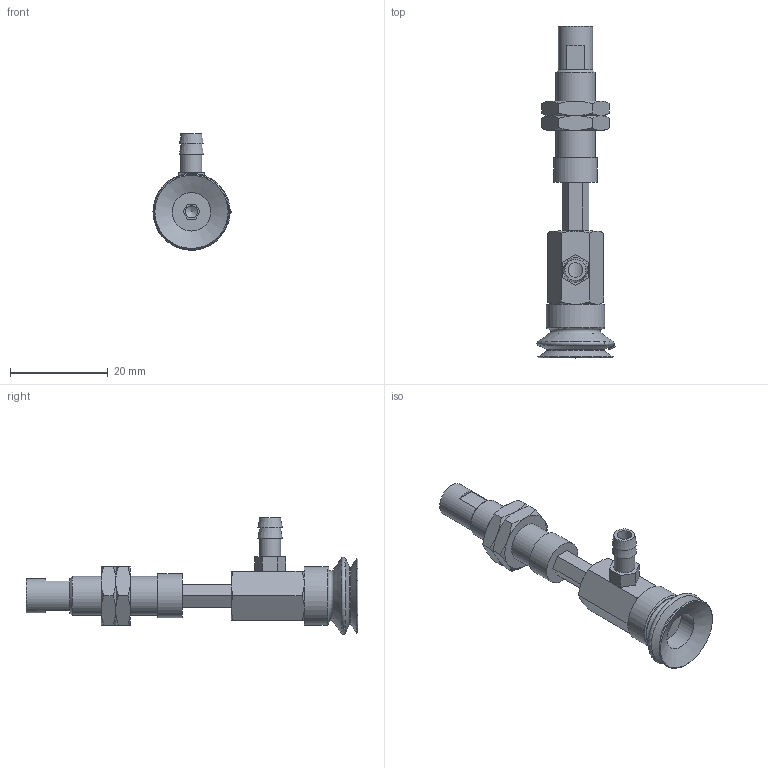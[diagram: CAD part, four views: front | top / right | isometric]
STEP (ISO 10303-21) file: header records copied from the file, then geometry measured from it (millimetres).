
FILE_DESCRIPTION(('STEP AP203'),'1');
FILE_NAME('-T.stp','2025-04-24T06:43:41',(' '),(' '),'Spatial InterOp 3D',' ',' ');
FILE_SCHEMA(('CONFIG_CONTROL_DESIGN'));
Length unit declared in the file: millimetre
Products named in the file (8): BNABPJYH-15-10-※-T; Adapter-15-NAPJ; CONNECTOR_H-15-10; NAPJH-15-10-NUT; NAPJTH-15-10-FBODY; NAPJTH-15-10-MBODY; BPJG-15-※; T
Assembly tree (8 placements, depth 2):
  BNABPJYH-15-10-※-T
    Adapter-15-NAPJ
    CONNECTOR_H-15-10
    NAPJH-15-10-NUT  x2
    NAPJTH-15-10-FBODY
    NAPJTH-15-10-MBODY
    BPJG-15-※
    T
Bounding box: 15.99 x 68 x 23.89 mm (x, y, z)
Volume: 4583.2 mm3; surface area: 5323.8 mm2
Topology: 8 solids, 8 shells, 182 faces, 397 edges, 241 vertices
Faces by surface type: plane 84, cone 61, cylinder 18, torus 9, bspline 6, sphere 4
Full cylindrical faces by diameter (mm): 2.5 x1, 3 x1, 4.134 x3, 4.3 x1, 4.6 x1, 5 x3, 7 x1, 7.188 x2, 7.9 x1, 8 x2, 9 x1, 12 x1
Entity records: 4880 total; most frequent: CARTESIAN_POINT 1266, DIRECTION 670, ORIENTED_EDGE 588, EDGE_CURVE 294, AXIS2_PLACEMENT_3D 274, EDGE_LOOP 225, VERTEX_POINT 204, FACE_OUTER_BOUND 183
